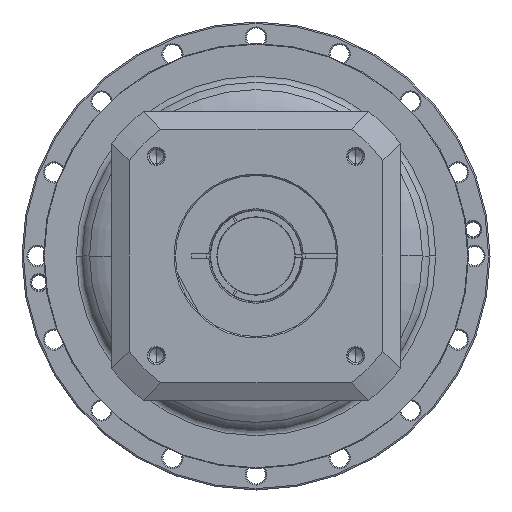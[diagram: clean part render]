
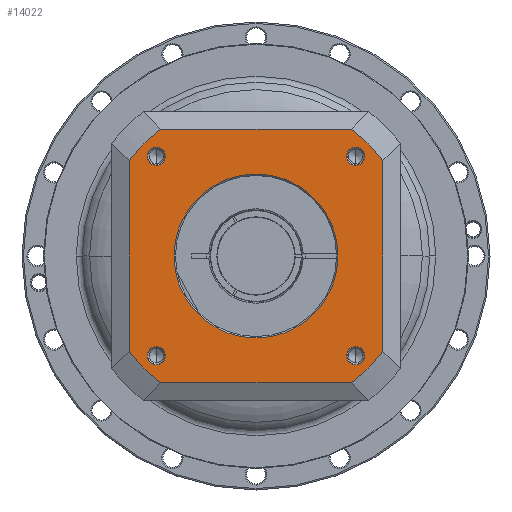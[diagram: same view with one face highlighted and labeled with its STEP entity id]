
A CAD part, left-side view. The second image highlights one B-rep face of the part: STEP entity #14022.
In plain terms, the highlighted planar face has unit normal (-1, 0, 0) as drawn and (0, 0, 1) by its records, which use the part's own axes.
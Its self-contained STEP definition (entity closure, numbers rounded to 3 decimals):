
#12795=CARTESIAN_POINT('',(0.,0.,
55.5));
#12796=DIRECTION('',(0.,0.,-1.));
#12797=DIRECTION('',(0.,-1.,0.));
#12798=AXIS2_PLACEMENT_3D('',#12795,#12796,#12797);
#12800=CARTESIAN_POINT('',(0.,0.,55.5));
#12801=DIRECTION('',(0.,0.,-1.));
#12802=DIRECTION('',(0.,1.,0.));
#12803=AXIS2_PLACEMENT_3D('',#12800,#12801,#12802);
#12805=DIRECTION('',(1.,0.,0.));
#12806=VECTOR('',#12805,135.);
#12807=CARTESIAN_POINT('',(-67.5,90.,55.5));
#12808=LINE('',#12807,#12806);
#12809=CARTESIAN_POINT('',(0.,0.,55.5));
#12810=DIRECTION('',(0.,0.,1.));
#12811=DIRECTION('',(0.8,0.6,0.));
#12812=AXIS2_PLACEMENT_3D('',#12809,#12810,#12811);
#12814=DIRECTION('',(0.,1.,0.));
#12815=VECTOR('',#12814,135.);
#12816=CARTESIAN_POINT('',(90.,-67.5,55.5));
#12817=LINE('',#12816,#12815);
#12818=DIRECTION('',(1.,0.,0.));
#12819=VECTOR('',#12818,135.);
#12820=CARTESIAN_POINT('',(-67.5,-90.,55.5));
#12821=LINE('',#12820,#12819);
#12822=CARTESIAN_POINT('',(0.,0.,55.5));
#12823=DIRECTION('',(0.,0.,1.));
#12824=DIRECTION('',(-0.8,-0.6,0.));
#12825=AXIS2_PLACEMENT_3D('',#12822,#12823,#12824);
#12827=DIRECTION('',(0.,1.,0.));
#12828=VECTOR('',#12827,135.);
#12829=CARTESIAN_POINT('',(-90.,-67.5,55.5));
#12830=LINE('',#12829,#12828);
#12845=CARTESIAN_POINT('',(0.,0.,55.5));
#12846=DIRECTION('',(0.,0.,1.));
#12847=DIRECTION('',(-0.6,0.8,0.));
#12848=AXIS2_PLACEMENT_3D('',#12845,#12846,#12847);
#12855=CARTESIAN_POINT('',(0.,0.,55.5));
#12856=DIRECTION('',(0.,0.,1.));
#12857=DIRECTION('',(0.6,-0.8,0.));
#12858=AXIS2_PLACEMENT_3D('',#12855,#12856,#12857);
#12872=CARTESIAN_POINT('',(-67.5,90.,55.5));
#12964=CARTESIAN_POINT('',(90.,-67.5,55.5));
#12992=CARTESIAN_POINT('',(67.5,-90.,55.5));
#13032=CARTESIAN_POINT('',(-90.,67.5,55.5));
#13041=CARTESIAN_POINT('',(-70.711,70.711,55.5));
#13042=DIRECTION('',(0.,0.,1.));
#13043=DIRECTION('',(-1.,0.,0.));
#13044=AXIS2_PLACEMENT_3D('',#13041,#13042,#13043);
#13059=CARTESIAN_POINT('',(-70.711,70.711,55.5));
#13060=DIRECTION('',(0.,0.,1.));
#13061=DIRECTION('',(1.,0.,0.));
#13062=AXIS2_PLACEMENT_3D('',#13059,#13060,#13061);
#13095=CARTESIAN_POINT('',(70.711,70.711,55.5));
#13096=DIRECTION('',(0.,0.,1.));
#13097=DIRECTION('',(-1.,0.,0.));
#13098=AXIS2_PLACEMENT_3D('',#13095,#13096,#13097);
#13113=CARTESIAN_POINT('',(70.711,70.711,55.5));
#13114=DIRECTION('',(0.,0.,1.));
#13115=DIRECTION('',(1.,0.,0.));
#13116=AXIS2_PLACEMENT_3D('',#13113,#13114,#13115);
#13149=CARTESIAN_POINT('',(70.711,-70.711,55.5));
#13150=DIRECTION('',(0.,0.,1.));
#13151=DIRECTION('',(-1.,0.,0.));
#13152=AXIS2_PLACEMENT_3D('',#13149,#13150,#13151);
#13167=CARTESIAN_POINT('',(70.711,-70.711,55.5));
#13168=DIRECTION('',(0.,0.,1.));
#13169=DIRECTION('',(1.,0.,0.));
#13170=AXIS2_PLACEMENT_3D('',#13167,#13168,#13169);
#13203=CARTESIAN_POINT('',(-70.711,-70.711,55.5));
#13204=DIRECTION('',(0.,0.,1.));
#13205=DIRECTION('',(-1.,0.,0.));
#13206=AXIS2_PLACEMENT_3D('',#13203,#13204,#13205);
#13221=CARTESIAN_POINT('',(-70.711,-70.711,55.5));
#13222=DIRECTION('',(0.,0.,1.));
#13223=DIRECTION('',(1.,0.,0.));
#13224=AXIS2_PLACEMENT_3D('',#13221,#13222,#13223);
#13311=CARTESIAN_POINT('',(-77.111,70.711,55.5));
#13312=CARTESIAN_POINT('',(-64.311,70.711,55.5));
#13313=VERTEX_POINT('',#13311);
#13314=VERTEX_POINT('',#13312);
#13337=CARTESIAN_POINT('',(-90.,-67.5,55.5));
#13338=CARTESIAN_POINT('',(-67.5,-90.,55.5));
#13339=VERTEX_POINT('',#13337);
#13340=VERTEX_POINT('',#13338);
#13341=CARTESIAN_POINT('',(90.,67.5,55.5));
#13342=CARTESIAN_POINT('',(67.5,90.,55.5));
#13343=VERTEX_POINT('',#13341);
#13344=VERTEX_POINT('',#13342);
#13353=VERTEX_POINT('',#12872);
#13356=VERTEX_POINT('',#12964);
#13357=VERTEX_POINT('',#12992);
#13360=VERTEX_POINT('',#13032);
#13369=CARTESIAN_POINT('',(77.111,70.711,55.5));
#13370=CARTESIAN_POINT('',(64.311,70.711,55.5));
#13371=VERTEX_POINT('',#13369);
#13372=VERTEX_POINT('',#13370);
#13377=CARTESIAN_POINT('',(77.111,-70.711,55.5));
#13378=CARTESIAN_POINT('',(64.311,-70.711,55.5));
#13379=VERTEX_POINT('',#13377);
#13380=VERTEX_POINT('',#13378);
#13385=CARTESIAN_POINT('',(-64.311,-70.711,55.5));
#13386=CARTESIAN_POINT('',(-77.111,-70.711,55.5));
#13387=VERTEX_POINT('',#13385);
#13388=VERTEX_POINT('',#13386);
#13393=CARTESIAN_POINT('',(0.,-58.15,55.5));
#13394=CARTESIAN_POINT('',(0.,58.15,
55.5));
#13395=VERTEX_POINT('',#13393);
#13396=VERTEX_POINT('',#13394);
#13970=CARTESIAN_POINT('',(0.,0.,55.5));
#13971=DIRECTION('',(0.,0.,1.));
#13972=DIRECTION('',(1.,0.,0.));
#13973=AXIS2_PLACEMENT_3D('',#13970,#13971,#13972);
#13974=PLANE('',#13973);
#13976=ORIENTED_EDGE('',*,*,#13975,.F.);
#13978=ORIENTED_EDGE('',*,*,#13977,.T.);
#13980=ORIENTED_EDGE('',*,*,#13979,.F.);
#13982=ORIENTED_EDGE('',*,*,#13981,.F.);
#13984=ORIENTED_EDGE('',*,*,#13983,.F.);
#13986=ORIENTED_EDGE('',*,*,#13985,.F.);
#13988=ORIENTED_EDGE('',*,*,#13987,.F.);
#13990=ORIENTED_EDGE('',*,*,#13989,.T.);
#13991=EDGE_LOOP('',(#13976,#13978,#13980,#13982,#13984,#13986,#13988,#13990));
#13992=FACE_OUTER_BOUND('',#13991,.F.);
#13994=ORIENTED_EDGE('',*,*,#13993,.F.);
#13995=ORIENTED_EDGE('',*,*,#13960,.F.);
#13996=EDGE_LOOP('',(#13994,#13995));
#13997=FACE_BOUND('',#13996,.F.);
#13999=ORIENTED_EDGE('',*,*,#13998,.T.);
#14001=ORIENTED_EDGE('',*,*,#14000,.T.);
#14002=EDGE_LOOP('',(#13999,#14001));
#14003=FACE_BOUND('',#14002,.F.);
#14005=ORIENTED_EDGE('',*,*,#14004,.T.);
#14007=ORIENTED_EDGE('',*,*,#14006,.T.);
#14008=EDGE_LOOP('',(#14005,#14007));
#14009=FACE_BOUND('',#14008,.F.);
#14011=ORIENTED_EDGE('',*,*,#14010,.T.);
#14013=ORIENTED_EDGE('',*,*,#14012,.T.);
#14014=EDGE_LOOP('',(#14011,#14013));
#14015=FACE_BOUND('',#14014,.F.);
#14017=ORIENTED_EDGE('',*,*,#14016,.T.);
#14019=ORIENTED_EDGE('',*,*,#14018,.T.);
#14020=EDGE_LOOP('',(#14017,#14019));
#14021=FACE_BOUND('',#14020,.F.);
#14022=ADVANCED_FACE('',(#13992,#13997,#14003,#14009,#14015,#14021),#13974,.T.);
#12799=CIRCLE('',#12798,58.15);
#12804=CIRCLE('',#12803,58.15);
#12813=CIRCLE('',#12812,112.5);
#12826=CIRCLE('',#12825,112.5);
#12849=CIRCLE('',#12848,112.5);
#12859=CIRCLE('',#12858,112.5);
#13045=CIRCLE('',#13044,6.4);
#13063=CIRCLE('',#13062,6.4);
#13099=CIRCLE('',#13098,6.4);
#13117=CIRCLE('',#13116,6.4);
#13153=CIRCLE('',#13152,6.4);
#13171=CIRCLE('',#13170,6.4);
#13207=CIRCLE('',#13206,6.4);
#13225=CIRCLE('',#13224,6.4);
#13960=EDGE_CURVE('',#13396,#13395,#12804,.T.);
#13975=EDGE_CURVE('',#13353,#13360,#12849,.T.);
#13977=EDGE_CURVE('',#13353,#13344,#12808,.T.);
#13979=EDGE_CURVE('',#13343,#13344,#12813,.T.);
#13981=EDGE_CURVE('',#13356,#13343,#12817,.T.);
#13983=EDGE_CURVE('',#13357,#13356,#12859,.T.);
#13985=EDGE_CURVE('',#13340,#13357,#12821,.T.);
#13987=EDGE_CURVE('',#13339,#13340,#12826,.T.);
#13989=EDGE_CURVE('',#13339,#13360,#12830,.T.);
#13993=EDGE_CURVE('',#13395,#13396,#12799,.T.);
#13998=EDGE_CURVE('',#13313,#13314,#13045,.T.);
#14000=EDGE_CURVE('',#13314,#13313,#13063,.T.);
#14004=EDGE_CURVE('',#13372,#13371,#13099,.T.);
#14006=EDGE_CURVE('',#13371,#13372,#13117,.T.);
#14010=EDGE_CURVE('',#13380,#13379,#13153,.T.);
#14012=EDGE_CURVE('',#13379,#13380,#13171,.T.);
#14016=EDGE_CURVE('',#13388,#13387,#13207,.T.);
#14018=EDGE_CURVE('',#13387,#13388,#13225,.T.);
